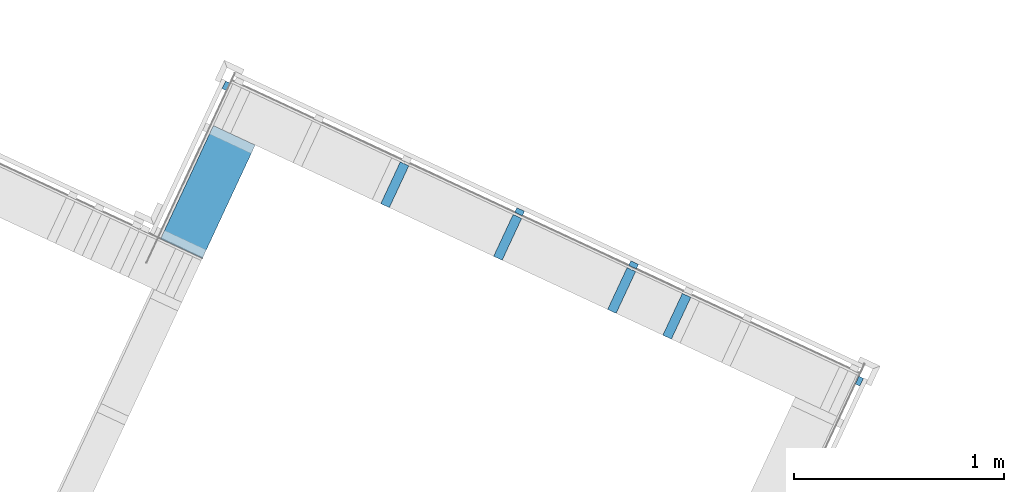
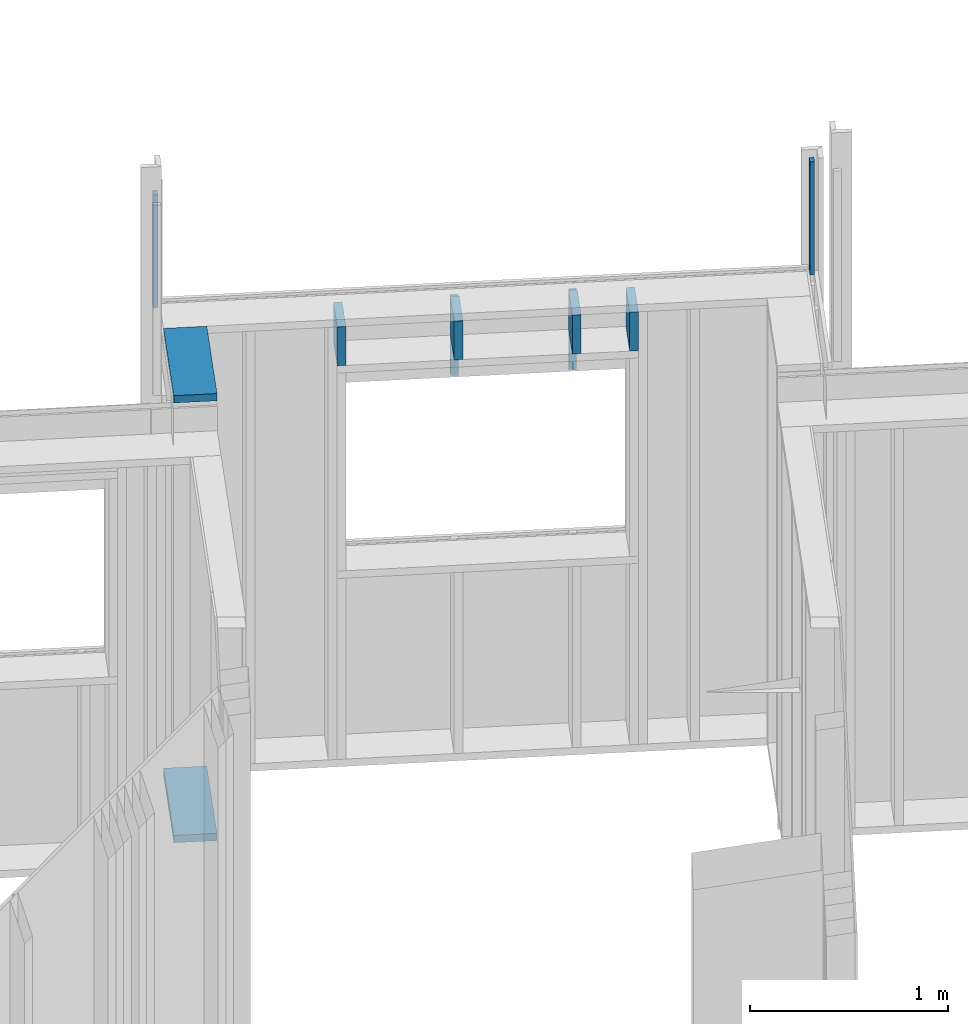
# One storey, part 21 of 34: 10 members.
"""IFC2X3 building model written with IfcOpenShell, lengths in metres."""

import ifcopenshell
import ifcopenshell.guid

model = None  # the IFC model being written
_history = None  # IfcOwnerHistory: only IFC2X3 demands one
_inside = {}  # id of a spatial element -> (the spatial element, [elements in it])
_under = {}  # id of a project, library or spatial element -> (it, [spatial elements below it])
_declared = {}  # id of a project -> (the project, [libraries it declares])
_typed = {}  # id of a type object -> (the type object, [elements of that type])
_made_of = {}  # id of a material, layer set ... -> (it, [elements and type objects made of it])


def new_model(schema):
    """Start an empty IFC model of exactly this schema.

    Asked for "IFC4X3", IfcOpenShell would pick the latest addendum, in which some entities
    have other attributes; the version numbers below select the first issue.
    IFC2X3 requires an IfcOwnerHistory on every rooted entity: one is made here for all.
    """
    global model, _history
    if schema == "IFC4X3":
        model = ifcopenshell.file(schema_version=(4, 3, 0, 0))
    else:
        model = ifcopenshell.file(schema=schema)
    _inside.clear()
    _under.clear()
    _declared.clear()
    _typed.clear()
    _made_of.clear()
    _history = None
    if model.schema == "IFC2X3":
        org = make("IfcOrganization", Name="unknown")
        user = make(
            "IfcPersonAndOrganization",
            ThePerson=make("IfcPerson", FamilyName="unknown"),
            TheOrganization=org,
        )
        app = make(
            "IfcApplication",
            ApplicationDeveloper=org,
            Version="unknown",
            ApplicationFullName="unknown",
            ApplicationIdentifier="unknown",
        )
        _history = make(
            "IfcOwnerHistory",
            OwningUser=user,
            OwningApplication=app,
            ChangeAction="ADDED",
            CreationDate=0,
        )
    return model


def make(cls, **values):
    """One entity of the class cls with the attributes given. An attribute that is None is left unset."""
    return model.create_entity(
        cls, **{name: value for name, value in values.items() if value is not None}
    )


def rooted(cls, **values):
    """An entity with a GlobalId (a new one), such as an element, a storey or a relation."""
    return make(cls, GlobalId=ifcopenshell.guid.new(), OwnerHistory=_history, **values)


def si_unit(unit_type, name, prefix=None):
    """IfcSIUnit, for example si_unit("LENGTHUNIT", "METRE", prefix="MILLI")."""
    return make("IfcSIUnit", UnitType=unit_type, Prefix=prefix, Name=name)


def assignment(units):
    """IfcUnitAssignment: the units of a project."""
    return None if units is None else make("IfcUnitAssignment", Units=units)


def point(xyz):
    """IfcCartesianPoint."""
    return None if xyz is None else make("IfcCartesianPoint", Coordinates=xyz)


def direction(xyz):
    """IfcDirection."""
    return None if xyz is None else make("IfcDirection", DirectionRatios=xyz)


def frame(location, z_axis=None, x_axis=None):
    """IfcAxis2Placement3D, a coordinate frame: its origin and axes. An axis left out is left unset."""
    return make(
        "IfcAxis2Placement3D",
        Location=point(location),
        Axis=direction(z_axis),
        RefDirection=direction(x_axis),
    )


def origin_with_axes():
    """The frame at (0, 0, 0) with the z axis (0, 0, 1) and the x axis (1, 0, 0) written out."""
    return frame((0.0, 0.0, 0.0), z_axis=(0.0, 0.0, 1.0), x_axis=(1.0, 0.0, 0.0))


def place(relative_to, where):
    """IfcLocalPlacement: puts the frame where relative to a parent placement (None: the world)."""
    return make(
        "IfcLocalPlacement", PlacementRelTo=relative_to, RelativePlacement=where
    )


def context(
    kind, dimensions, precision=None, world=None, true_north=None, identifier=None
):
    """IfcGeometricRepresentationContext, for example the 3D "Model" context."""
    return make(
        "IfcGeometricRepresentationContext",
        ContextIdentifier=identifier,
        ContextType=kind,
        CoordinateSpaceDimension=dimensions,
        Precision=precision,
        WorldCoordinateSystem=world,
        TrueNorth=true_north,
    )


def subcontext(parent, identifier, kind, view, scale=None):
    """IfcGeometricRepresentationSubContext, for example "Body" below "Model"."""
    return make(
        "IfcGeometricRepresentationSubContext",
        ContextIdentifier=identifier,
        ContextType=kind,
        ParentContext=parent,
        TargetScale=scale,
        TargetView=view,
    )


def project(units=None, contexts=None):
    """IfcProject with its units and contexts."""
    return rooted(
        "IfcProject",
        Name="project",
        RepresentationContexts=contexts,
        UnitsInContext=assignment(units),
    )


def spatial(cls, under=None, at=None, **own):
    """A site, building, storey or space (cls), placed at a placement, below another one or the project."""
    s = rooted(cls, ObjectPlacement=at, **own)
    if under is not None:
        _under.setdefault(under.id(), (under, []))[1].append(s)
    return s


def faces_of(points, faces, orient=None, outer=None):
    """IfcFace entities. A face is a list of loops; a loop is a list of indices into points, from 0.

    orient and outer hold one flag for each loop. By default every Orientation is true, the
    first loop of a face is its IfcFaceOuterBound and the others are IfcFaceBound.
    """
    made = []
    for i, loops in enumerate(faces):
        bounds = []
        for j, loop in enumerate(loops):
            is_outer = j == 0 if outer is None else outer[i][j]
            bounds.append(
                make(
                    "IfcFaceOuterBound" if is_outer else "IfcFaceBound",
                    Bound=make("IfcPolyLoop", Polygon=[points[k] for k in loop]),
                    Orientation=True if orient is None else orient[i][j],
                )
            )
        made.append(make("IfcFace", Bounds=bounds))
    return made


def faceted_brep(points, faces, orient=None, outer=None, voids=None):
    """IfcFacetedBrep: a solid bounded by flat faces; with voids (closed shells), ...WithVoids."""
    shared = [point(p) for p in points]
    hull = make("IfcClosedShell", CfsFaces=faces_of(shared, faces, orient, outer))
    if voids is None:
        return make("IfcFacetedBrep", Outer=hull)
    return make(
        "IfcFacetedBrepWithVoids",
        Outer=hull,
        Voids=[
            make(cls, CfsFaces=faces_of(shared, fs, o, b)) for cls, fs, o, b in voids
        ],
    )


def shape(context_of_items, identifier, shape_type, items):
    """IfcShapeRepresentation: the items that make up one representation, for example the "Body"."""
    return make(
        "IfcShapeRepresentation",
        ContextOfItems=context_of_items,
        RepresentationIdentifier=identifier,
        RepresentationType=shape_type,
        Items=items,
    )


def material(Name=None, Category=None):
    """IfcMaterial."""
    return make("IfcMaterial", Name=Name, Category=Category)


def made_of(thing, what):
    """Note that an element or type object is made of a material, layer set ...; save() writes the relation."""
    if what is not None:
        _made_of.setdefault(what.id(), (what, []))[1].append(thing)
    return thing


def element(
    cls,
    number,
    at=None,
    inside=None,
    cuts=None,
    type_object=None,
    material=None,
    context=None,
    identifier="Body",
    shape_type=None,
    held_by="IfcProductDefinitionShape",
    body=None,
    shapes=None,
    **own,
):
    """One element of the class cls, such as IfcWall. Its Tag is "e" and its number.

    at: its placement. inside: the storey or other place that contains it. cuts: it is an
    opening in that element (IfcRelVoidsElement). A single representation is given by context,
    identifier, shape_type and body (its items); several are given by shapes. held_by: the class
    of the entity that holds the representations. save() writes the other relations.
    """
    e = rooted(cls, Tag="e%d" % number, ObjectPlacement=at, **own)
    if body is not None:
        shapes = [shape(context, identifier, shape_type, body)]
    if shapes is not None:
        e.Representation = make(held_by, Representations=shapes)
    if inside is not None:
        _inside.setdefault(inside.id(), (inside, []))[1].append(e)
    if cuts is not None:
        rooted(
            "IfcRelVoidsElement", RelatingBuildingElement=cuts, RelatedOpeningElement=e
        )
    if type_object is not None:
        _typed.setdefault(type_object.id(), (type_object, []))[1].append(e)
    return made_of(e, material)


def aggregate(whole, parts):
    """IfcRelAggregates: a whole, such as a stair, and the parts it consists of."""
    return rooted("IfcRelAggregates", RelatingObject=whole, RelatedObjects=parts)


def save(model, path):
    """Write the relations noted so far, then the file.

    IfcRelAggregates (storeys below a building ...), IfcRelContainedInSpatialStructure (elements
    in a storey), IfcRelDefinesByType, IfcRelAssociatesMaterial and IfcRelDeclares: one each for
    every whole, place, type object, material and project.
    """
    for whole, parts in _under.values():
        aggregate(whole, parts)
    for where, things in _inside.values():
        rooted(
            "IfcRelContainedInSpatialStructure",
            RelatedElements=things,
            RelatingStructure=where,
        )
    for kind, things in _typed.values():
        rooted("IfcRelDefinesByType", RelatedObjects=things, RelatingType=kind)
    for what, things in _made_of.values():
        rooted("IfcRelAssociatesMaterial", RelatedObjects=things, RelatingMaterial=what)
    for by, libraries in _declared.values():
        rooted("IfcRelDeclares", RelatingContext=by, RelatedDefinitions=libraries)
    model.write(path)


model = new_model("IFC2X3")

# Units and contexts
model_context = context("Model", 3, precision=1e-06, world=origin_with_axes(), true_north=direction((0.0, 1.0, 0.0)))
body_context = subcontext(model_context, "Body", "Model", "MODEL_VIEW")
ifc_project = project(units=[si_unit("LENGTHUNIT", "METRE"), si_unit("AREAUNIT", "SQUARE_METRE"), si_unit("VOLUMEUNIT", "CUBIC_METRE"), si_unit("PLANEANGLEUNIT", "RADIAN")], contexts=[model_context])

# Site, building, storey
site_placement = place(None, origin_with_axes())
site = spatial("IfcSite", under=ifc_project, at=site_placement, CompositionType="ELEMENT")
building_placement = place(site_placement, origin_with_axes())
building = spatial("IfcBuilding", under=site, at=building_placement, Name="Building 1", CompositionType="ELEMENT")
storey_placement = place(building_placement, origin_with_axes())
storey = spatial("IfcBuildingStorey", under=building, at=storey_placement, Name="Rez de chaussée", CompositionType="ELEMENT", Elevation=0.0)

# Members
ifc_material = material(Name="Epicéa C24")
member_1_placement = place(storey_placement, frame((11.2725496, 6.6719814, 3.5078831), z_axis=(0.9063078, -0.4226183, 0.0), x_axis=(0.0, 0.0, -1.0)))
element("IfcMember", 1, at=member_1_placement, inside=storey, material=ifc_material, Name="latte chantier", context=body_context, shape_type="Brep", body=[
    faceted_brep([(0.6978831, 0.02, 0.012), (0.0, 0.02, 0.012), (0.0, -0.02, 0.012), (0.6978831, -0.02, 0.012), (0.0, -0.02, -0.012), (0.6978831, -0.02, -0.012), (0.0, 0.02, -0.012), (0.6978831, 0.02, -0.012)], [[[0, 1, 2, 3]], [[3, 2, 4, 5]], [[5, 4, 6, 7]], [[7, 6, 1, 0]], [[7, 0, 3, 5]], [[1, 6, 4, 2]]]),
])
member_2_placement = place(storey_placement, frame((8.2509194, 8.0809907, 3.5078831), z_axis=(-0.9063078, 0.4226183, 0.0), x_axis=(0.0, 0.0, -1.0)))
element("IfcMember", 2, at=member_2_placement, inside=storey, material=ifc_material, Name="latte chantier", context=body_context, shape_type="Brep", body=[
    faceted_brep([(0.6978831, 0.02, -0.012), (0.6978831, 0.02, 0.012), (0.6978831, -0.02, 0.012), (0.6978831, -0.02, -0.012), (0.0, 0.02, 0.012), (0.0, 0.02, -0.012), (0.0, -0.02, -0.012), (0.0, -0.02, 0.012)], [[[0, 1, 2, 3]], [[4, 5, 6, 7]], [[3, 6, 5, 0]], [[2, 7, 6, 3]], [[1, 4, 7, 2]], [[0, 5, 4, 1]]]),
])
for number, where, z_axis, x_axis, name in (
    (3, (10.4016664, 6.9815353, 2.76), (0.4226183, 0.9063078, 0.0), (0.0, 0.0, -1.0), "Montant"),
    (4, (9.0557993, 7.6091234, 2.76), (0.4226183, 0.9063078, 0.0), (0.0, 0.0, -1.0), "Montant"),
    (5, (9.5942471, 7.3580411, 2.76), (0.4226183, 0.9063078, 0.0), (0.0, 0.0, -1.0), "Montant"),
):
    element("IfcMember", number, at=place(storey_placement, frame(where, z_axis=z_axis, x_axis=x_axis)), inside=storey, material=ifc_material, Name=name, context=body_context, shape_type="Brep", body=[
        faceted_brep([(0.0, -0.0225, -0.11), (0.0, -0.0225, 0.11), (0.0, 0.0225, 0.11), (0.0, 0.0225, -0.11), (0.24, -0.0225, 0.11), (0.24, 0.0225, 0.11), (0.24, 0.0225, -0.11), (0.24, -0.0225, -0.11)], [[[0, 1, 2, 3]], [[1, 4, 5, 2]], [[2, 5, 6, 3]], [[3, 6, 7, 0]], [[0, 7, 4, 1]], [[7, 6, 5, 4]]]),
    ])
member_3_placement = place(storey_placement, frame((8.2898039, 7.8449414, 2.7825), z_axis=(0.9063078, -0.4226183, 0.0), x_axis=(-0.4226183, -0.9063078, 0.0)))
element("IfcMember", 6, at=member_3_placement, inside=storey, material=ifc_material, Name="Montant", context=body_context, shape_type="Brep", body=[
    faceted_brep([(0.0, -0.0225, 0.11), (0.0, 0.0225, 0.11), (0.0, 0.0225, -0.11), (0.0, -0.0225, -0.11), (0.5962178, -0.0225, -0.11), (0.5962178, 0.0225, -0.11), (0.5962178, 0.0225, 0.11), (0.5962178, -0.0225, 0.11)], [[[0, 1, 2, 3]], [[4, 5, 6, 7]], [[3, 4, 7, 0]], [[5, 4, 3, 2]], [[6, 5, 2, 1]], [[7, 6, 1, 0]]]),
])
member_4_placement = place(storey_placement, frame((9.6513006, 7.4803926, 2.745), z_axis=(0.4226183, 0.9063078, 0.0), x_axis=(0.0, 0.0, -1.0)))
element("IfcMember", 7, at=member_4_placement, inside=storey, material=ifc_material, Name="latte 27/40", context=body_context, shape_type="Brep", body=[
    faceted_brep([(0.485, -0.02, -0.012), (0.485, 0.02, -0.012), (0.485, 0.02, 0.012), (0.485, -0.02, 0.012), (0.0, 0.02, 0.012), (0.0, -0.02, 0.012), (0.0, 0.02, -0.012), (0.0, -0.02, -0.012)], [[[0, 1, 2, 3]], [[3, 2, 4, 5]], [[2, 1, 6, 4]], [[1, 0, 7, 6]], [[0, 3, 5, 7]], [[5, 4, 6, 7]]]),
])
member_5_placement = place(storey_placement, frame((8.2898039, 7.8449414, 0.0675), z_axis=(0.9063078, -0.4226183, 0.0), x_axis=(-0.4226183, -0.9063078, 0.0)))
element("IfcMember", 8, at=member_5_placement, inside=storey, material=ifc_material, Name="Lisse basse", context=body_context, shape_type="Brep", body=[
    faceted_brep([(0.0, -0.0225, 0.11), (0.0, 0.0225, 0.11), (0.0, 0.0225, -0.11), (0.0, -0.0225, -0.11), (0.5962178, -0.0225, -0.11), (0.5962178, 0.0225, -0.11), (0.5962178, 0.0225, 0.11), (0.5962178, -0.0225, 0.11)], [[[0, 1, 2, 3]], [[4, 5, 6, 7]], [[3, 4, 7, 0]], [[5, 4, 3, 2]], [[6, 5, 2, 1]], [[7, 6, 1, 0]]]),
])
member_6_placement = place(storey_placement, frame((10.1950853, 7.2268217, 2.745), z_axis=(0.4226183, 0.9063078, 0.0), x_axis=(0.0, 0.0, -1.0)))
element("IfcMember", 9, at=member_6_placement, inside=storey, material=ifc_material, Name="latte 27/40", context=body_context, shape_type="Brep", body=[
    faceted_brep([(0.485, -0.02, -0.012), (0.485, 0.02, -0.012), (0.485, 0.02, 0.012), (0.485, -0.02, 0.012), (0.0, 0.02, 0.012), (0.0, -0.02, 0.012), (0.0, 0.02, -0.012), (0.0, -0.02, -0.012)], [[[0, 1, 2, 3]], [[3, 2, 4, 5]], [[2, 1, 6, 4]], [[1, 0, 7, 6]], [[0, 3, 5, 7]], [[5, 4, 6, 7]]]),
])
member_7_placement = place(storey_placement, frame((10.1380318, 7.1044701, 2.76), z_axis=(0.4226183, 0.9063078, 0.0), x_axis=(0.0, 0.0, -1.0)))
element("IfcMember", 10, at=member_7_placement, inside=storey, material=ifc_material, Name="Montant", context=body_context, shape_type="Brep", body=[
    faceted_brep([(0.0, -0.0225, -0.11), (0.0, -0.0225, 0.11), (0.0, 0.0225, 0.11), (0.0, 0.0225, -0.11), (0.24, -0.0225, 0.11), (0.24, 0.0225, 0.11), (0.24, 0.0225, -0.11), (0.24, -0.0225, -0.11)], [[[0, 1, 2, 3]], [[1, 4, 5, 2]], [[2, 5, 6, 3]], [[3, 6, 7, 0]], [[0, 7, 4, 1]], [[7, 6, 5, 4]]]),
])

save(model, "model.ifc")
